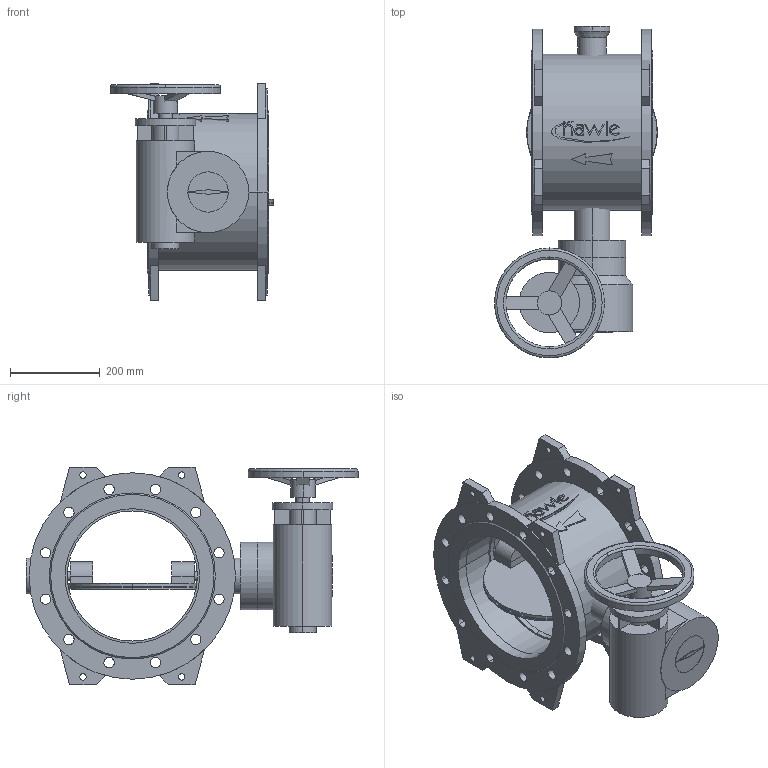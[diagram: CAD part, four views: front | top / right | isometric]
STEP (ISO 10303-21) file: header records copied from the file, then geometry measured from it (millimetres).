
FILE_DESCRIPTION(('STEP AP214'),'1');
FILE_NAME('S:/EK/USER/CAT6/3DHomepage_27-04-2012/neu_08-01-2013/9881K/9881K_PN10_DN300_7800.STP','2013-02-26T15:33:56',(' '),(' '),'Spatial InterOp 3D',' ',' ');
FILE_SCHEMA(('automotive_design'));
Length unit declared in the file: millimetre
Products named in the file (47): 3D-Objekt
Bounding box: 363.5 x 740 x 484 mm (x, y, z)
Volume: 19754379.6 mm3; surface area: 1958646.1 mm2
Topology: 47 solids, 47 shells, 395 faces, 894 edges, 596 vertices
Faces by surface type: plane 212, cylinder 171, cone 8, torus 4
Entity records: 15731 total; most frequent: DIRECTION 2170, CARTESIAN_POINT 2057, ORIENTED_EDGE 1788, EDGE_CURVE 894, AXIS2_PLACEMENT_3D 835, VERTEX_POINT 596, LINE 500, VECTOR 500
